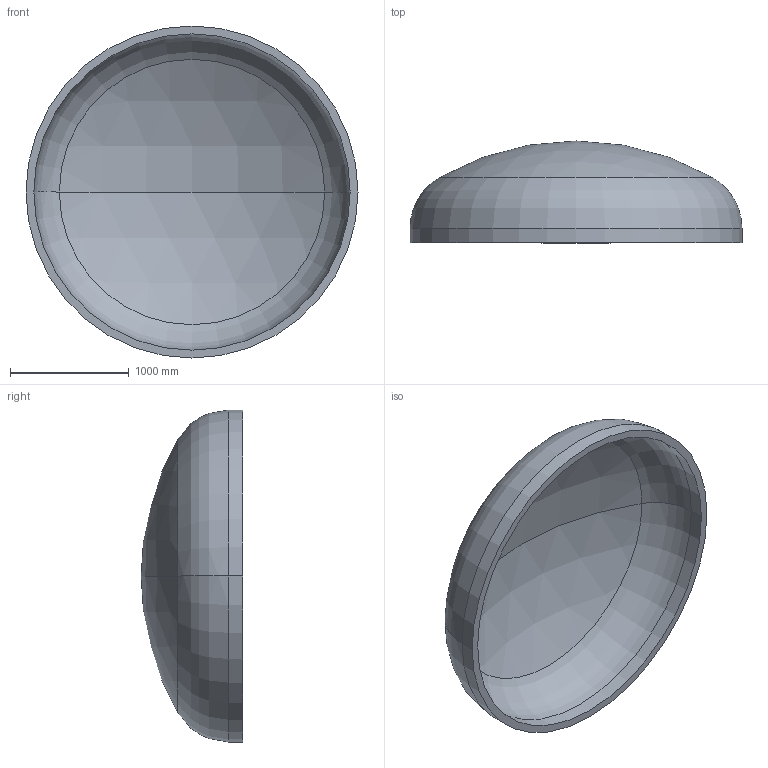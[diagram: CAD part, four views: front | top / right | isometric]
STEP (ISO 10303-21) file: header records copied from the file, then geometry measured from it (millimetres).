
FILE_DESCRIPTION (( 'STEP AP203' ), '1' );
FILE_NAME ('DIN 28013 Korbbogenform_-_Boden DIN 28013 - 2800 x 120 - I - s=66.step', '2016-07-01T17:08:12', ( '' ), ( '' ), 'SwSTEP 2.0', 'SolidWorks 2013', '' );
FILE_SCHEMA (( 'CONFIG_CONTROL_DESIGN' ));
Length unit declared in the file: millimetre
Products named in the file (1): DIN 28013 Korbbogenform_-_Boden DIN 28013 - 2800 x 120 - I - s=66
Bounding box: 2800 x 857.92 x 2800 mm (x, y, z)
Volume: 613422291.2 mm3; surface area: 19164552.9 mm2
Topology: 1 solids, 1 shells, 13 faces, 24 edges, 14 vertices
Faces by surface type: torus 4, cylinder 4, sphere 4, plane 1
Entity records: 407 total; most frequent: DIRECTION 72, CARTESIAN_POINT 52, ORIENTED_EDGE 48, AXIS2_PLACEMENT_3D 34, EDGE_CURVE 24, CIRCLE 20, VERTEX_POINT 14, EDGE_LOOP 14
